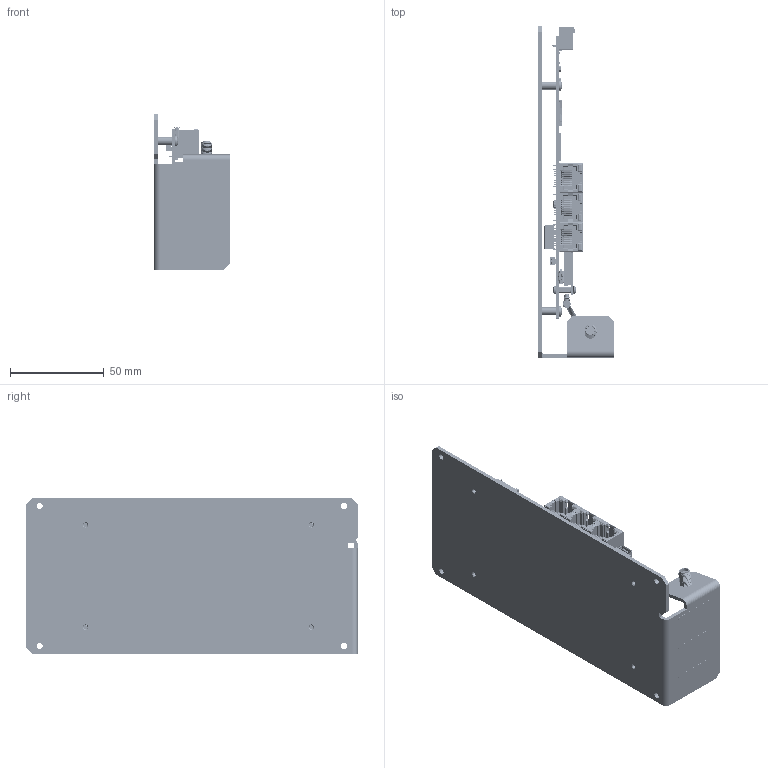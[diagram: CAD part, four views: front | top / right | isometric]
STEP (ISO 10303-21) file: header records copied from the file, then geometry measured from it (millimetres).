
FILE_DESCRIPTION (( 'STEP AP214' ), '1' );
FILE_NAME ('Z9-P.STEP', '2018-05-16T18:03:32', ( '' ), ( '' ), 'SwSTEP 2.0', 'SolidWorks 2016', '' );
FILE_SCHEMA (( 'AUTOMOTIVE_DESIGN' ));
Length unit declared in the file: inch
Products named in the file (88): SM-XXX_-A7; SOP65P640X11016N_EIC1674SS; LLR0080SP; ECN3301SB; MTH093X180_MTH093X180; C-114-X_-01; SO8_3_94_EIC2432SE; TMM-107-01-G-D-SM-A-P-TR; ECN3301SB_Body2; XROUNDTOP_LARGE_XROUNDTOP1_6; EOP0062RG LED; MLF2X2_EIC5310PS; _TMM-107-01-G-D-SM_pin; MIL0002ZL; EIN0472PS_EIN0102PT; EPC0069IF_Thor-B; SOIC8_5_4_EIC2564FS; _TMM-107-01-G-D-SM-A-P-TR_body; MIL0002ZL_Stamping; 0805IND_EFI0805FB; LGA32R600X600X125_EIC6901SS; EPC0091XA_Single PCB; PEM SOS-440-12; 0402_EIN0082FW; Z9-P; SOT65P210X1105N_EIC3801SS; AII0002ZL; HSC0406PP_96562A108; 0402_EIN0101FG; QFN50P700X700X10049N_EIC1350SS; ECN0502FR; Z9-P BoardSet; 0805IND_EIN0103FS; MTH030_TP30; HSO0204FF_91115A806; Z9-C&T_Z9-T; SC703_EDI0099SD; TPSMD030_TPSMD030; HSC0203LP_Lime; LLR0040SP_LAB0012ZL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
Assembly tree (258 placements, depth 6):
  MTH093X180_MTH093X180
  XROUNDTOP_LARGE_XROUNDTOP1_6
  Z9-P
    Z9-P BoardSet
      AII0002ZL
        EPC0069IF_Thor-B
        EOP0062RG LED  x3
        ECN2478FS
          C-114-X_-01  x24
          SM-XXX_-A7  x2
          CLT-XXD_-BE Formula
        ECN5025DN
        Micro processor, TI AM3352_Pkg
        EFI0726SA
        ECN4758MS
        EIC2432SE
        EIN0222VL_rev A  x3
        ECN5085AA_Modified  x3
        Solid Tantalum Chip Capacitor_A-3216-18
        HSC0203LP_Lime  x4
        HSO0204FF_91115A806  x4
        ECN0502FR
      HSC0203LP_Lime  x4
      Z9-C&T_Z9-T
        EPC0091XA_Single PCB
        TMM-107-01-G-D-SM-A-P-TR
          _TMM-107-01-G-D-SM-A-P-TR_body
          _TMM-107-01-G-D-SM_pin  x26
        Thor-A_emn_Z9-T
          epc0091xa81315n bottom_Z9-T
            LLR0080SP
          epc0091xa81315n top
            0402_ECA0103FX  x8
            0402_ECA0104LS  x2
            0402_ECA0104FX  x16
            0603_ECA0106SX  x5
            0402_ECA0105XV  x8
            0402_ECA0220FC  x3
            0402_ECA0120FC  x2
            0402_ECA0180FC  x2
            0402_ECA0020FP  x5
            EOP0026RG_EOP0062RG  x3
            SC703_EDI0099SD  x10
            0805IND_EIN0103FS
            0402_EIN0101FG
            0402_EIN0082FW  x2
            0805IND_EFI0805FB  x2
            EIN0472PS_EIN0102PT
            0402_ERE0330FP  x25
            0402_ERE1002FP  x12
            0402_ERE475RFP  x2
            0402_ERE2002FP
            0402_ERE0000FP  x10
            0402_ERE1004FP
            0402_ERE1001FP
            0402_ERE2001FP  x4
            0402_ERE1503FP
            0402_ERETBDFP
            QFN50P700X700X10049N_EIC1350SS
            SOT65P210X1105N_EIC3801SS
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Bounding box: 40.85 x 177.29 x 83.06 mm (x, y, z)
Volume: 65017.9 mm3; surface area: 87865.1 mm2
Topology: 246 solids, 262 shells, 10777 faces, 28605 edges, 18710 vertices
Faces by surface type: plane 6345, cylinder 3079, bspline 865, cone 350, sphere 72, torus 66
Entity records: 211339 total; most frequent: CARTESIAN_POINT 70174, ORIENTED_EDGE 26534, DIRECTION 24153, EDGE_CURVE 13269, VECTOR 9209, LINE 9209, VERTEX_POINT 8853, AXIS2_PLACEMENT_3D 7472
